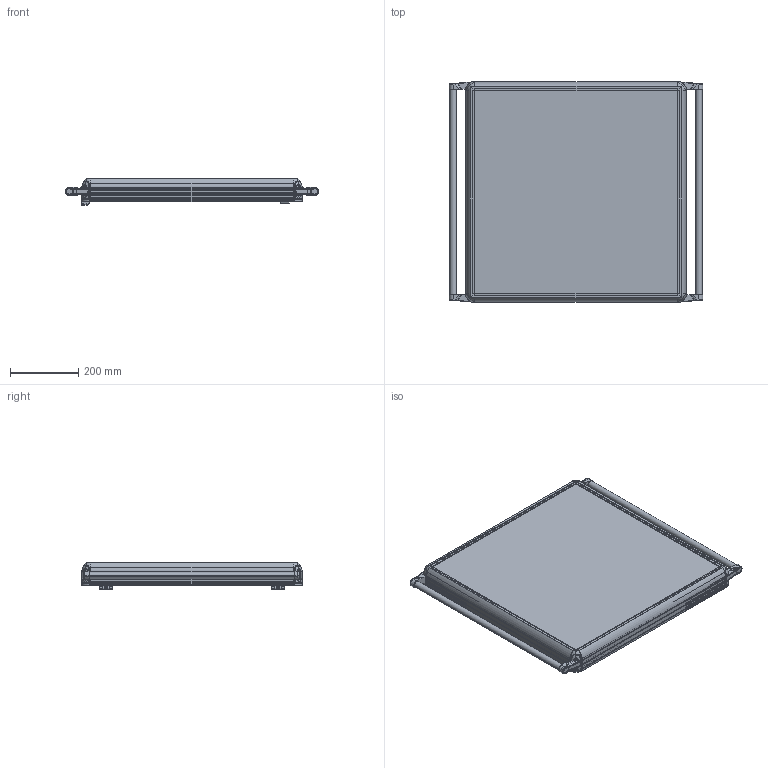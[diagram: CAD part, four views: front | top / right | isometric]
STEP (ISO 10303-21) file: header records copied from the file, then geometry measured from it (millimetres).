
FILE_DESCRIPTION (( 'STEP AP214' ), '1' );
FILE_NAME ('6000-0216.STEP', '2022-08-31T13:22:55', ( '' ), ( '' ), 'SwSTEP 2.0', 'SolidWorks 2022', '' );
FILE_SCHEMA (( 'AUTOMOTIVE_DESIGN' ));
Length unit declared in the file: millimetre
Products named in the file (7): HPECO-060-001-495_595; ARKA_KAPAK_600X600; 6000-0216; ECO6000-0100(SAÐ); ECO6000-0100(SOL); boru_625; 600X600
Assembly tree (12 placements, depth 2):
  6000-0216
    600X600
    ARKA_KAPAK_600X600
    boru_625  x2
    ECO6000-0100(SOL)  x2
    ECO6000-0100(SAÐ)  x2
    HPECO-060-001-495_595  x4
Bounding box: 744.62 x 647 x 79.15 mm (x, y, z)
Volume: 3285039.3 mm3; surface area: 2609534.7 mm2
Topology: 20 solids, 78 shells, 5893 faces, 15874 edges, 9916 vertices
Faces by surface type: plane 2269, cylinder 1646, bspline 1108, cone 528, torus 296, sphere 46
Entity records: 182652 total; most frequent: CARTESIAN_POINT 49221, ORIENTED_EDGE 21206, DIRECTION 17713, EDGE_CURVE 10603, VERTEX_POINT 6611, AXIS2_PLACEMENT_3D 6506, LINE 4701, VECTOR 4701
